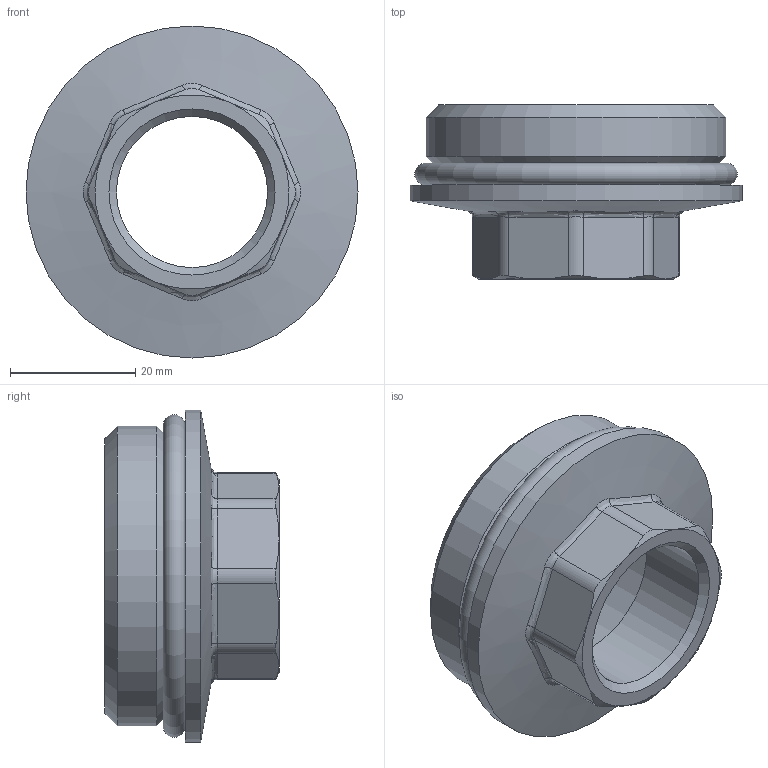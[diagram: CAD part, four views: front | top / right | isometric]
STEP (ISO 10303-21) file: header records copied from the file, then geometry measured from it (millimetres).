
FILE_DESCRIPTION(('STEP AP242'), '1');
FILE_NAME('覆.302634.089.000 捘 - VTr.585.N.0805', '', ('UNSPECIFIED'), ('UNSPECIFIED'), 'C3D Converter', 'C3D Toolkit', '');
FILE_SCHEMA(('AP242_MANAGED_MODEL_BASED_3D_ENGINEERING_MIM_LF { 1 0 10303 442 1 1 4 }'));
Length unit declared in the file: millimetre
Products named in the file (3): ВР.302634.089.000 СБ; ВР.753157.032
Assembly tree (2 placements, depth 2):
  ВР.302634.089.000 СБ
    ВР.753157.032
    (unnamed)
Bounding box: 53 x 27.8 x 53 mm (x, y, z)
Volume: 17815.2 mm3; surface area: 10908.9 mm2
Topology: 2 solids, 2 shells, 55 faces, 133 edges, 83 vertices
Faces by surface type: bspline 16, cylinder 13, cone 12, plane 11, torus 3
Full cylindrical faces by diameter (mm): 24.118 x1, 39.2 x1, 44.5 x1, 47.803 x1, 53 x1
Entity records: 3497 total; most frequent: CARTESIAN_POINT 2352, ORIENTED_EDGE 204, DIRECTION 146, EDGE_CURVE 102, B_SPLINE_CURVE_WITH_KNOTS 70, EDGE_LOOP 67, VERTEX_POINT 67, AXIS2_PLACEMENT_3D 65
